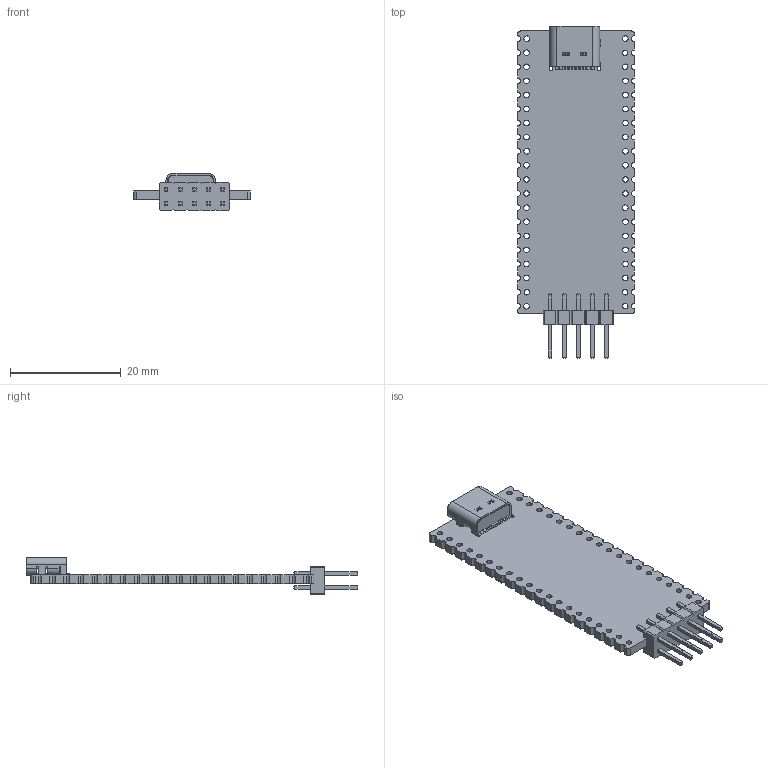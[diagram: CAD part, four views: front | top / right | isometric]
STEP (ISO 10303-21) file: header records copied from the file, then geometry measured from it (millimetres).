
FILE_DESCRIPTION(('KiCad electronic assembly'),'2;1');
FILE_NAME('SWM181CBT6.step','2022-07-21T15:32:31',('Pcbnew'),('Kicad'), 'Open CASCADE STEP processor 7.6','KiCad to STEP converter','Unknown' );
FILE_SCHEMA(('AUTOMOTIVE_DESIGN { 1 0 10303 214 1 1 1 1 }'));
Length unit declared in the file: millimetre
Products named in the file (6): SWM181CBT6 1; PinHeader_2x05_P2.54mm_Vertical; SOLID; USB Type C Port (SMD Type); COMPOUND; SWM181CBT6 PCB
Assembly tree (5 placements, depth 3):
  SWM181CBT6 1
    PinHeader_2x05_P2.54mm_Vertical
      SOLID
    USB Type C Port (SMD Type)
      COMPOUND
    SWM181CBT6 PCB
Bounding box: 21 x 59.86 x 6.67 mm (x, y, z)
Volume: 1945.6 mm3; surface area: 3544.1 mm2
Topology: 26 solids, 26 shells, 776 faces, 1977 edges, 1260 vertices
Faces by surface type: bspline 608, cylinder 114, plane 54
Full cylindrical faces by diameter (mm): 0.6 x2, 1 x40
Entity records: 47958 total; most frequent: CARTESIAN_POINT 15972, B_SPLINE_CURVE_WITH_KNOTS 4197, ORIENTED_EDGE 3938, PCURVE 3938, DEFINITIONAL_REPRESENTATION 3938, EDGE_CURVE 1969, SURFACE_CURVE 1927, DIRECTION 1910
